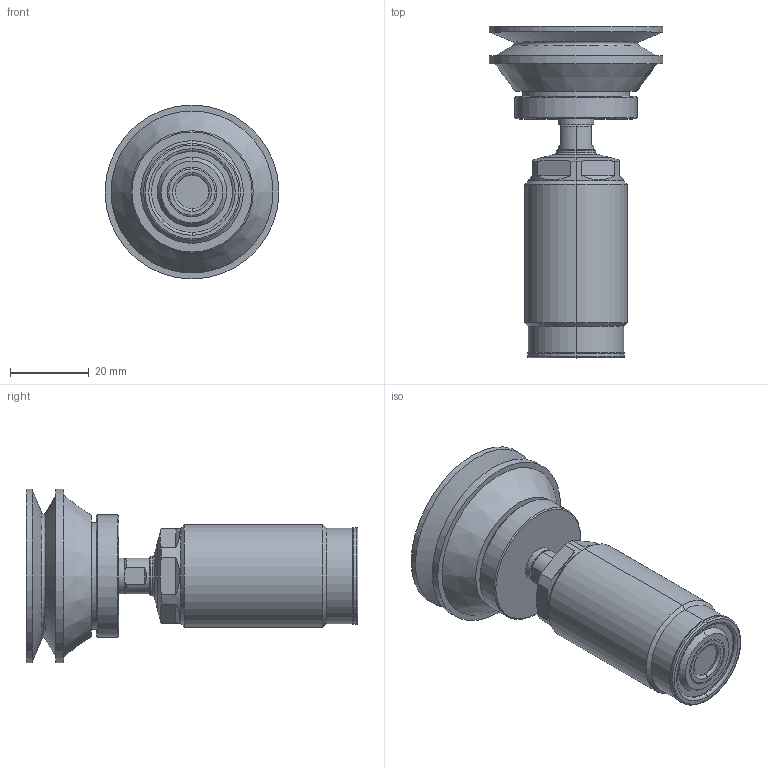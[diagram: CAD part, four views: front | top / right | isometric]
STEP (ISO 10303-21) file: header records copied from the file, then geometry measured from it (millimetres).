
FILE_DESCRIPTION(/* description */ (''),/* implementation_level */ '2;1');
FILE_NAME(/* name */ 'TNL26-D.stp',/* time_stamp */ '2024-04-13T10:44:51+08:00',/* author */ (''),/* organization */ (''),/* preprocessor_version */ 'ST-DEVELOPER v16.7',/* originating_system */ 'SIEMENS PLM Software NX 12.0',/* authorisation */ '');
FILE_SCHEMA (('AP203_CONFIGURATION_CONTROLLED_3D_DESIGN_OF_MECHANICAL_PARTS_AND_ASSEMBLIES_MIM_LF { 1 0 10303 403 2 1 2}'));
Length unit declared in the file: millimetre
Products named in the file (10): TNL26-09; TNL26-08; TNL26-07; TNL26-06; TNL26-02; TNL26-01; TNL26-03; TNL26-04; TNL26-05; TNL26_stp
Assembly tree (9 placements, depth 2):
  TNL26_stp
    TNL26-05
    TNL26-04
    TNL26-03
    TNL26-01
    TNL26-02
    TNL26-06
    TNL26-07
    TNL26-08
    TNL26-09
Bounding box: 44 x 84 x 44 mm (x, y, z)
Volume: 40341.4 mm3; surface area: 19079.3 mm2
Topology: 9 solids, 9 shells, 184 faces, 392 edges, 239 vertices
Faces by surface type: plane 60, cylinder 48, torus 43, cone 30, sphere 3
Full cylindrical faces by diameter (mm): 6 x1, 9 x1, 15.7 x1, 16 x1, 23 x1, 27 x1, 27.5 x1, 31 x1, 44 x2
Entity records: 6188 total; most frequent: CARTESIAN_POINT 1037, DIRECTION 954, ORIENTED_EDGE 724, AXIS2_PLACEMENT_3D 424, EDGE_CURVE 362, VERTEX_POINT 235, EDGE_LOOP 232, CIRCLE 230
